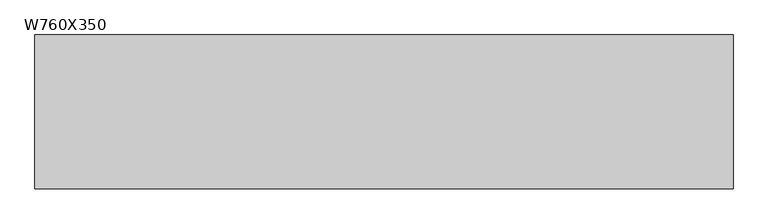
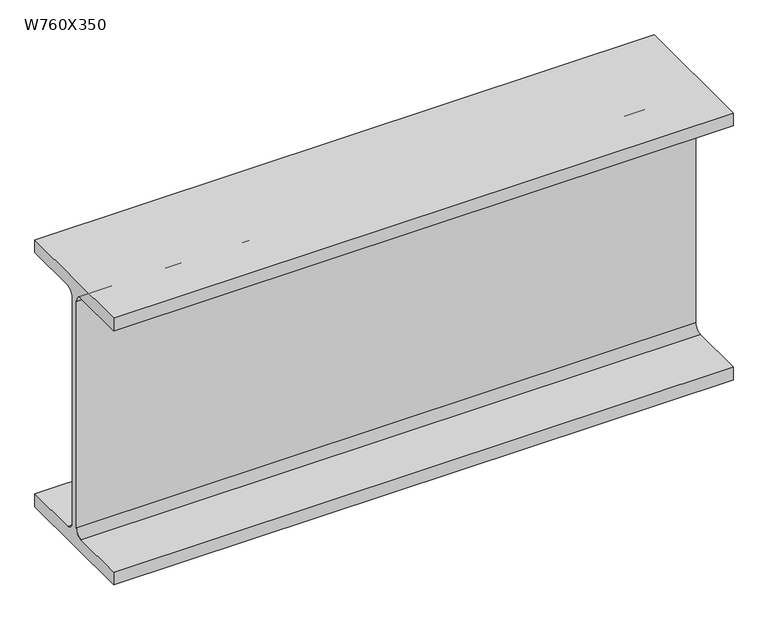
"""IFC4 building model written with IfcOpenShell, lengths in millimetres: beam geometry, M_W-Wide Flange : W760X350."""

from ifc_helpers import new_model, si_unit, point, frame, frame_2d, origin, place, context, project, spatial, polyline, circle_curve, trimmed, segment, composite_curve, outline, extrude, source, transform, mapped, element, save


def w760x350_e8c7bbcb(model_context):
    return source(origin(), model_context, "Body", "SweptSolid", [
        extrude(outline(composite_curve([segment(polyline([(192.0, -359.4), (192.0, -397.5), (-192.0, -397.5), (-192.0, -359.4), (-32.75, -359.4)]), True, "CONTINUOUS"), segment(trimmed(circle_curve(frame_2d((-32.75, -337.2)), 22.2), [point((-32.75, -359.4))], [point((-10.55, -337.2))], True, "CARTESIAN"), True, "CONTINUOUS"), segment(polyline([(-10.55, -337.2), (-10.55, 337.2)]), True, "CONTINUOUS"), segment(trimmed(circle_curve(frame_2d((-32.75, 337.2)), 22.2), [point((-10.55, 337.2))], [point((-32.75, 359.4))], True, "CARTESIAN"), True, "CONTINUOUS"), segment(polyline([(-32.75, 359.4), (-192.0, 359.4), (-192.0, 397.5), (192.0, 397.5), (192.0, 359.4), (32.75, 359.4)]), True, "CONTINUOUS"), segment(trimmed(circle_curve(frame_2d((32.75, 337.2)), 22.2), [point((32.75, 359.4))], [point((10.55, 337.2))], True, "CARTESIAN"), True, "CONTINUOUS"), segment(polyline([(10.55, 337.2), (10.55, -337.2)]), True, "CONTINUOUS"), segment(trimmed(circle_curve(frame_2d((32.75, -337.2)), 22.2), [point((10.55, -337.2))], [point((32.75, -359.4))], True, "CARTESIAN"), True, "CONTINUOUS"), segment(polyline([(32.75, -359.4), (192.0, -359.4)]), True, "CONTINUOUS")], self_intersect=False)), frame((-1008.2943939, 0.0, 0.0), z_axis=(1.0, 0.0, 0.0), x_axis=(0.0, 1.0, 0.0)), (0.0, 0.0, 1.0), 1744.2435035),
    ])


if __name__ == "__main__":
    model = new_model("IFC4")
    model_context = context("Model", 3, world=origin())
    ifc_project = project(units=[si_unit("LENGTHUNIT", "METRE", prefix="MILLI")], contexts=[model_context])
    site = spatial("IfcSite", under=ifc_project)
    building = spatial("IfcBuilding", under=site)
    placement = place(None, origin())
    w760x350_shape = w760x350_e8c7bbcb(model_context)
    element("IfcBeam", 1, ObjectType="M_W-Wide Flange : W760X350", at=placement, inside=building, context=model_context, shape_type="MappedRepresentation", body=[
        mapped(w760x350_shape, transform((0.0, 0.0, 0.0), x_axis=(1.0, 0.0, 0.0), y_axis=(0.0, 1.0, 0.0), z_axis=(0.0, 0.0, 1.0))),
    ])
    save(model, "model.ifc")
